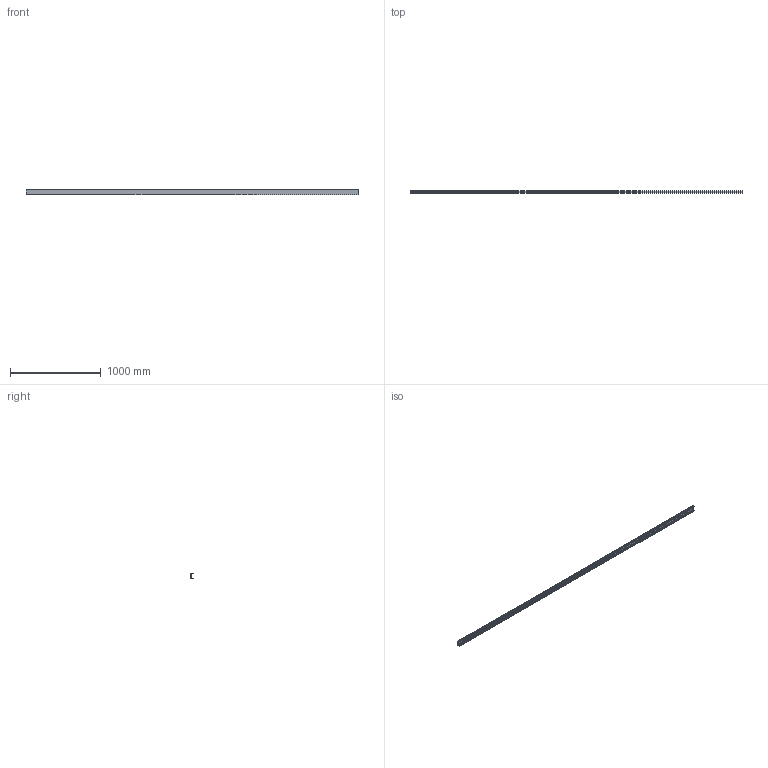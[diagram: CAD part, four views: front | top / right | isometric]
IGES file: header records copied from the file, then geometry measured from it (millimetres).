
Start section: Data from Parasolid IGES Translator 15.0.47, Copyright(c) 2006 Siemens P LM Software. All Rights Reserved.
Global section: file name: 9995920.igs; native system:  By UGS Corp.; preprocessor: XPlus GENERIC/IGES 3.0; author: Noname; organization: Noname; date: 20140122.180253; units: millimetre
Bounding box: 3660 x 24.85 x 62 mm (x, y, z)
Surface area: 960220 mm2 (no closed solid volume)
Topology: 0 solids, 0 shells, 42 faces, 240 edges, 240 vertices
Faces by surface type: extrusion 29, revolution 13
